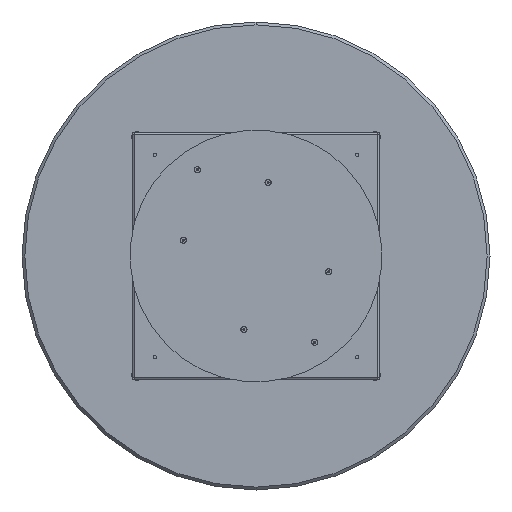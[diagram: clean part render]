
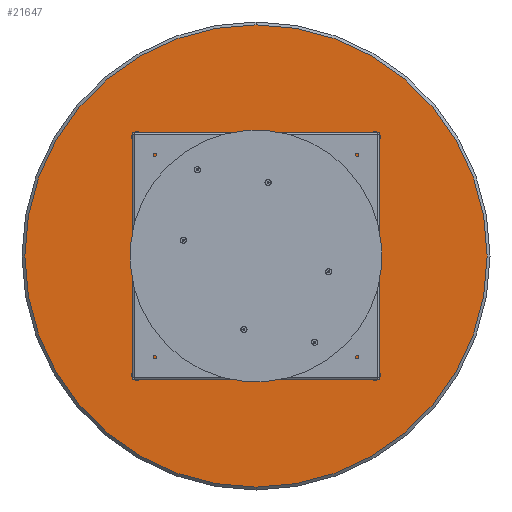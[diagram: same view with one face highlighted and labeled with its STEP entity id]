
A CAD part, front view. The second image highlights one B-rep face of the part: STEP entity #21647.
In plain terms, the highlighted planar face has unit normal (0, -1, 0).
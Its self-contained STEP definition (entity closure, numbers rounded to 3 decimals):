
#70 = DIRECTION ( 'NONE',  ( 0., -1., 0. ) ) ;
#86 = DIRECTION ( 'NONE',  ( 0., -1., 0. ) ) ;
#214 = CARTESIAN_POINT ( 'NONE',  ( 0., 0., 0. ) ) ;
#282 = AXIS2_PLACEMENT_3D ( 'NONE', #16217, #86, #19546 ) ;
#1931 = CIRCLE ( 'NONE', #18856, 642. ) ;
#1949 = DIRECTION ( 'NONE',  ( 0., -1., 0. ) ) ;
#1952 = CARTESIAN_POINT ( 'NONE',  ( 0., 0., 642. ) ) ;
#4225 = CARTESIAN_POINT ( 'NONE',  ( 0., 0., -642. ) ) ;
#5395 = EDGE_LOOP ( 'NONE', ( #12039, #21836 ) ) ;
#5634 = DIRECTION ( 'NONE',  ( 0., 0., -1. ) ) ;
#7219 = PLANE ( 'NONE',  #9857 ) ;
#8729 = DIRECTION ( 'NONE',  ( 0., 0., -1. ) ) ;
#9857 = AXIS2_PLACEMENT_3D ( 'NONE', #12288, #70, #8729 ) ;
#12039 = ORIENTED_EDGE ( 'NONE', *, *, #13964, .T. ) ;
#12288 = CARTESIAN_POINT ( 'NONE',  ( 0., 0., 0. ) ) ;
#13964 = EDGE_CURVE ( 'NONE', #22384, #16411, #1931, .T. ) ;
#15373 = CIRCLE ( 'NONE', #282, 642. ) ;
#16217 = CARTESIAN_POINT ( 'NONE',  ( 0., 0., 0. ) ) ;
#16411 = VERTEX_POINT ( 'NONE', #4225 ) ;
#18856 = AXIS2_PLACEMENT_3D ( 'NONE', #214, #1949, #5634 ) ;
#19442 = EDGE_CURVE ( 'NONE', #16411, #22384, #15373, .T. ) ;
#19546 = DIRECTION ( 'NONE',  ( 0., 0., -1. ) ) ;
#20911 = FACE_OUTER_BOUND ( 'NONE', #5395, .T. ) ;
#21647 = ADVANCED_FACE ( 'NONE', ( #20911 ), #7219, .T. ) ;
#21836 = ORIENTED_EDGE ( 'NONE', *, *, #19442, .T. ) ;
#22384 = VERTEX_POINT ( 'NONE', #1952 ) ;
